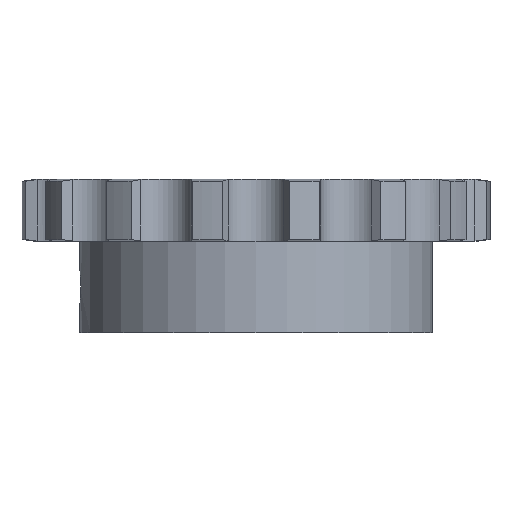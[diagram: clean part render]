
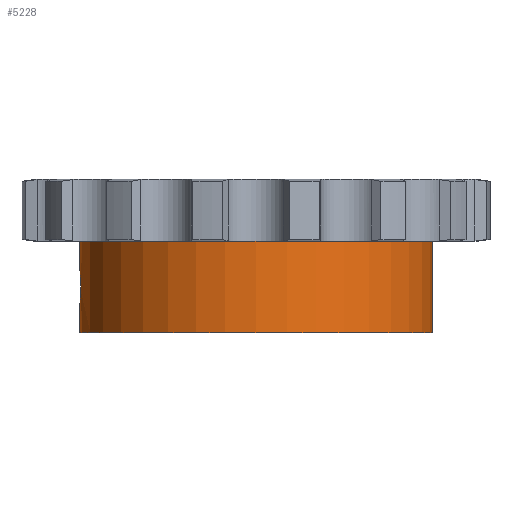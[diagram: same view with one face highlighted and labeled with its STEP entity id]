
A CAD part, front view. The second image highlights one B-rep face of the part: STEP entity #5228.
In plain terms, the highlighted cylindrical face has radius 46 mm (diameter 92 mm), a partial arc.
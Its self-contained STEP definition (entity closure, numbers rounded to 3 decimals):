
#991=CARTESIAN_POINT('',(0.,0.,-8.1));
#992=DIRECTION('',(0.,0.,1.));
#993=DIRECTION('',(-1.,0.,0.));
#994=AXIS2_PLACEMENT_3D('',#991,#992,#993);
#2427=CARTESIAN_POINT('',(-46.,0.,
-15.));
#2451=DIRECTION('',(0.,0.,1.));
#2452=VECTOR('',#2451,23.8);
#2453=CARTESIAN_POINT('',(46.,0.,-31.9));
#2454=LINE('',#2453,#2452);
#2578=CARTESIAN_POINT('',(-46.,0.,
-15.));
#2579=CARTESIAN_POINT('',(-46.,-0.2,
-15.));
#2580=CARTESIAN_POINT('',(-45.997,-0.629,
-15.025));
#2581=CARTESIAN_POINT('',(-45.984,-1.282,
-15.146));
#2582=CARTESIAN_POINT('',(-45.961,-1.941,
-15.362));
#2583=CARTESIAN_POINT('',(-45.93,-2.562,
-15.664));
#2584=CARTESIAN_POINT('',(-45.894,-3.133,
-16.043));
#2585=CARTESIAN_POINT('',(-45.856,-3.645,
-16.494));
#2586=CARTESIAN_POINT('',(-45.818,-4.091,
-17.007));
#2587=CARTESIAN_POINT('',(-45.783,-4.462,
-17.574));
#2588=CARTESIAN_POINT('',(-45.754,-4.753,
-18.186));
#2589=CARTESIAN_POINT('',(-45.732,-4.956,
-18.826));
#2590=CARTESIAN_POINT('',(-45.721,-5.062,
-19.437));
#2591=CARTESIAN_POINT('',(-45.718,-5.083,
-19.828));
#2592=CARTESIAN_POINT('',(-45.718,-5.083,
-20.));
#2597=DIRECTION('',(0.,0.,1.));
#2598=VECTOR('',#2597,6.9);
#2599=CARTESIAN_POINT('',(-46.,0.,
-15.));
#2600=LINE('',#2599,#2598);
#2604=DIRECTION('',(0.,0.,1.));
#2605=VECTOR('',#2604,6.9);
#2606=CARTESIAN_POINT('',(-46.,0.,-31.9));
#2607=LINE('',#2606,#2605);
#2611=CARTESIAN_POINT('',(-45.718,-5.083,
-20.));
#2612=CARTESIAN_POINT('',(-45.718,-5.083,
-20.184));
#2613=CARTESIAN_POINT('',(-45.721,-5.06,
-20.585));
#2614=CARTESIAN_POINT('',(-45.733,-4.949,
-21.205));
#2615=CARTESIAN_POINT('',(-45.755,-4.742,
-21.841));
#2616=CARTESIAN_POINT('',(-45.785,-4.449,
-22.448));
#2617=CARTESIAN_POINT('',(-45.82,-4.077,
-23.011));
#2618=CARTESIAN_POINT('',(-45.857,-3.632,
-23.52));
#2619=CARTESIAN_POINT('',(-45.895,-3.12,
-23.966));
#2620=CARTESIAN_POINT('',(-45.931,-2.55,
-24.343));
#2621=CARTESIAN_POINT('',(-45.961,-1.932,
-24.641));
#2622=CARTESIAN_POINT('',(-45.984,-1.276,
-24.856));
#2623=CARTESIAN_POINT('',(-45.997,-0.626,
-24.975));
#2624=CARTESIAN_POINT('',(-46.,-0.199,
-25.));
#2625=CARTESIAN_POINT('',(-46.,0.,
-25.));
#2638=CARTESIAN_POINT('',(0.,0.,-31.9));
#2639=DIRECTION('',(0.,0.,-1.));
#2640=DIRECTION('',(1.,0.,0.));
#2641=AXIS2_PLACEMENT_3D('',#2638,#2639,#2640);
#2989=CARTESIAN_POINT('',(-46.,0.,-31.9));
#2990=CARTESIAN_POINT('',(46.,0.,-31.9));
#2991=VERTEX_POINT('',#2989);
#2992=VERTEX_POINT('',#2990);
#2993=CARTESIAN_POINT('',(46.,0.,-8.1));
#2994=VERTEX_POINT('',#2993);
#2995=CARTESIAN_POINT('',(-46.,0.,-8.1));
#2996=VERTEX_POINT('',#2995);
#3158=VERTEX_POINT('',#2427);
#3161=VERTEX_POINT('',#2592);
#3163=VERTEX_POINT('',#2625);
#5212=CARTESIAN_POINT('',(0.,0.,8.1));
#5213=DIRECTION('',(0.,0.,1.));
#5214=DIRECTION('',(1.,0.,0.));
#5215=AXIS2_PLACEMENT_3D('',#5212,#5213,#5214);
#5216=CYLINDRICAL_SURFACE('',#5215,46.);
#5217=ORIENTED_EDGE('',*,*,#5202,.F.);
#5218=ORIENTED_EDGE('',*,*,#4765,.T.);
#5219=ORIENTED_EDGE('',*,*,#4101,.T.);
#5220=ORIENTED_EDGE('',*,*,#4762,.F.);
#5222=ORIENTED_EDGE('',*,*,#5221,.T.);
#5223=ORIENTED_EDGE('',*,*,#4758,.T.);
#5225=ORIENTED_EDGE('',*,*,#5224,.F.);
#5226=EDGE_LOOP('',(#5217,#5218,#5219,#5220,#5222,#5223,#5225));
#5227=FACE_OUTER_BOUND('',#5226,.F.);
#5228=ADVANCED_FACE('',(#5227),#5216,.T.);
#995=CIRCLE('',#994,46.);
#2593=B_SPLINE_CURVE_WITH_KNOTS('',3,(#2578,#2579,#2580,#2581,#2582,#2583,#2584,
#2585,#2586,#2587,#2588,#2589,#2590,#2591,#2592),.UNSPECIFIED.,.F.,.F.,(4,1,1,1,
1,1,1,1,1,1,1,1,4),(0.,0.075,0.161,0.247,
0.332,0.418,0.503,0.589,
0.675,0.76,0.846,0.931,1.),
.UNSPECIFIED.);
#2626=B_SPLINE_CURVE_WITH_KNOTS('',3,(#2611,#2612,#2613,#2614,#2615,#2616,#2617,
#2618,#2619,#2620,#2621,#2622,#2623,#2624,#2625),.UNSPECIFIED.,.F.,.F.,(4,1,1,1,
1,1,1,1,1,1,1,1,4),(0.,0.073,0.158,0.244,
0.329,0.414,0.499,0.584,
0.669,0.755,0.84,0.925,1.),
.UNSPECIFIED.);
#2642=CIRCLE('',#2641,46.);
#4101=EDGE_CURVE('',#2996,#2994,#995,.T.);
#4758=EDGE_CURVE('',#2991,#3163,#2607,.T.);
#4762=EDGE_CURVE('',#2992,#2994,#2454,.T.);
#4765=EDGE_CURVE('',#3158,#2996,#2600,.T.);
#5202=EDGE_CURVE('',#3158,#3161,#2593,.T.);
#5221=EDGE_CURVE('',#2992,#2991,#2642,.T.);
#5224=EDGE_CURVE('',#3161,#3163,#2626,.T.);
